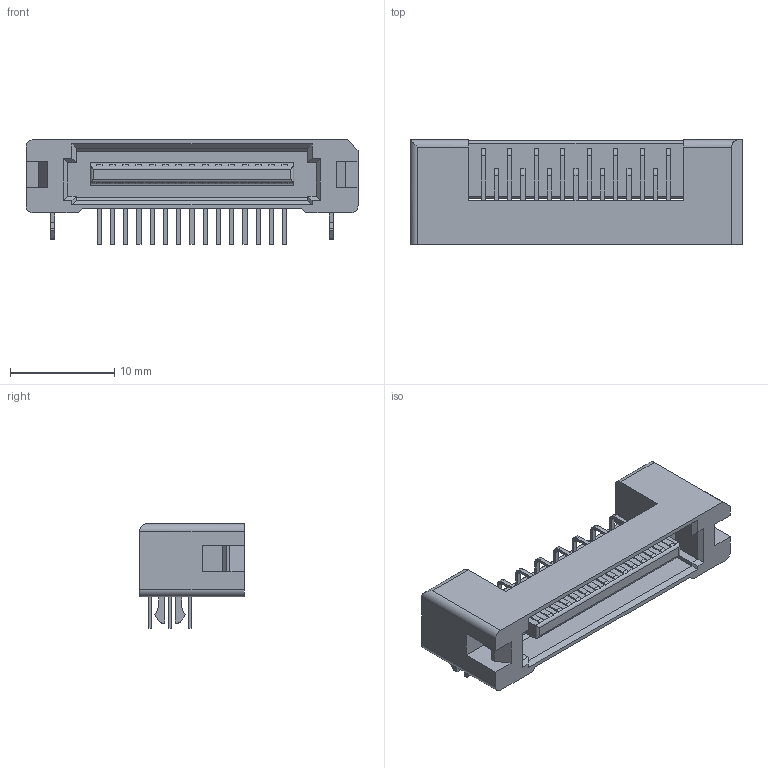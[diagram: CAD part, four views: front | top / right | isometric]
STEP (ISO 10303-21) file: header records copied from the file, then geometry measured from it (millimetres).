
FILE_DESCRIPTION(('CoCreate Modeling STEP Export'),'2;1');
FILE_NAME('8931E-030-178L-F.stp','2017-09-07T11:34:14',(''),(''),'CoCreate Modeling STEP processor for AP214 (Solid Model)','CoCreate Modeling 17.0B 09-Oct-2010 (C) Parametric Technology GmbH','');
FILE_SCHEMA(('AUTOMOTIVE_DESIGN { 1 0 10303 214 1 1 1 1 }'));
Length unit declared in the file: millimetre
Products named in the file (2): 8931E-030-178L-F
Assembly tree (1 placements, depth 2):
  8931E-030-178L-F
    8931E-030-178L-F
Bounding box: 31.78 x 10 x 10 mm (x, y, z)
Volume: 1165.8 mm3; surface area: 1943.6 mm2
Topology: 1 solids, 1 shells, 662 faces, 1855 edges, 1229 vertices
Faces by surface type: plane 557, cylinder 105
Entity records: 19767 total; most frequent: ORIENTED_EDGE 3710, CARTESIAN_POINT 3400, DIRECTION 3002, EDGE_CURVE 1855, VECTOR 1340, LINE 1340, VERTEX_POINT 1229, AXIS2_PLACEMENT_3D 831
